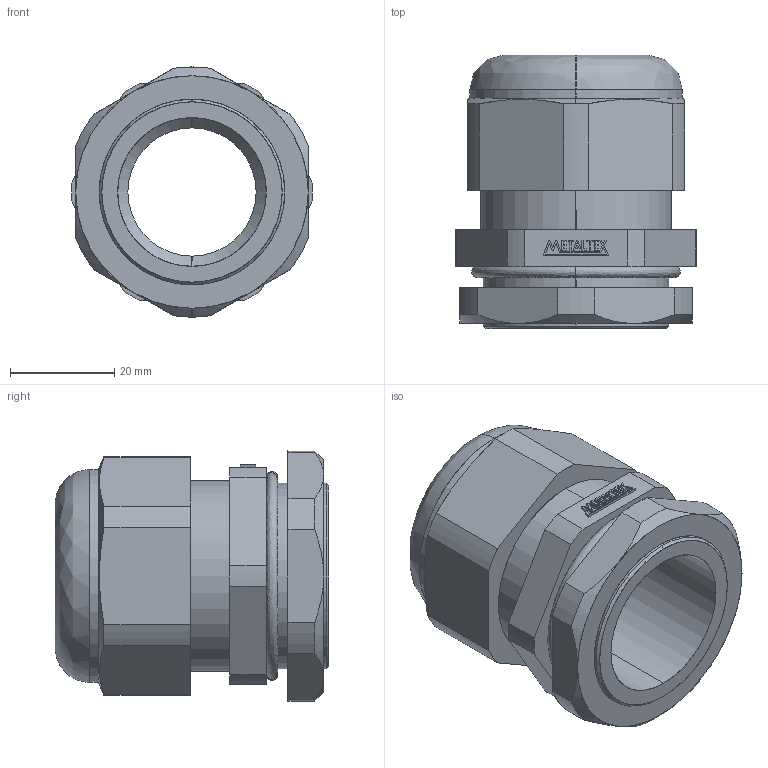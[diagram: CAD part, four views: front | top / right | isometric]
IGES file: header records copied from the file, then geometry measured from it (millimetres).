
Start section: SolidWorks IGES file using analytic representation for surfaces
Global section: file name: D:\X - Arquivos\PROEX\Empresas\P11 - METALTEX\01 - Produtos\IGES\Terceira remessa\Etapa 2\CH-M36.IGS; native system: SolidWorks 2012; preprocessor: SolidWorks 2012; author: Usuario; date: 180207.124330; units: millimetre
Bounding box: 46.18 x 52.5 x 48 mm (x, y, z)
Surface area: 15502.3 mm2 (no closed solid volume)
Topology: 0 solids, 0 shells, 174 faces, 1591 edges, 1591 vertices
Faces by surface type: bspline 125, revolution 49
